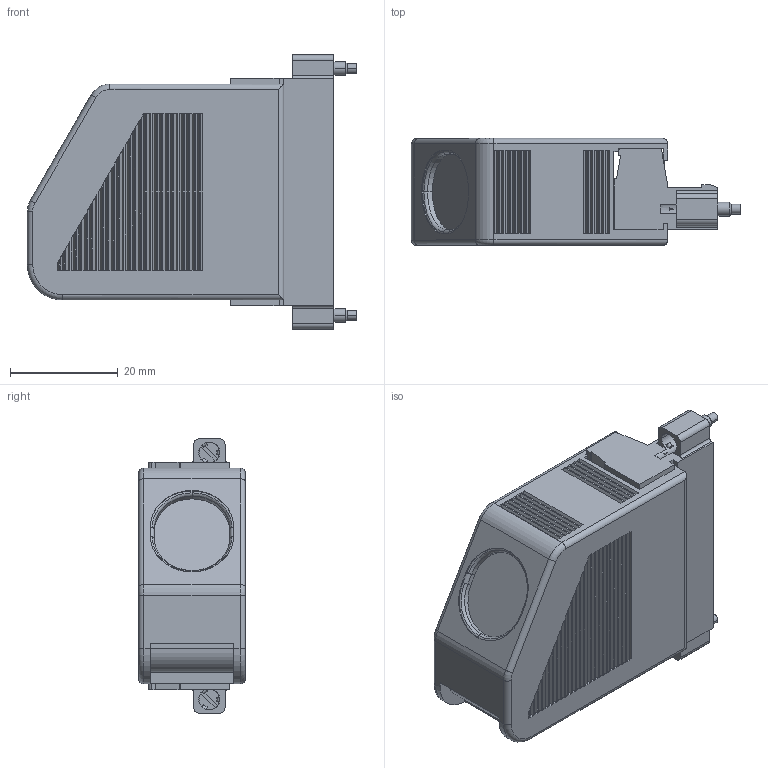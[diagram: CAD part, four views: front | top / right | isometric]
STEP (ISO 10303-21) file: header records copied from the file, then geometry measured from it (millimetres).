
FILE_DESCRIPTION((''),'2;1');
FILE_NAME('2600-KIT_ASM','2023-02-28T12:32:59',('afergus2'),('Keithley Instruments'),'CREO PARAMETRIC BY PTC INC, 2022284','CREO PARAMETRIC BY PTC INC, 2022284','');
FILE_SCHEMA(('AUTOMOTIVE_DESIGN { 1 0 10303 214 1 1 1 1 }'));
Length unit declared in the file: inch
Products named in the file (5): CS-1195-8; KGS-MSTB_2_5-8-153630; KGS-MSTB_2_5-8-158510_ASM; CS-1196-8_ASM; 2600-KIT_ASM
Assembly tree (4 placements, depth 4):
  2600-KIT_ASM
    CS-1195-8
    CS-1196-8_ASM
      KGS-MSTB_2_5-8-158510_ASM
        KGS-MSTB_2_5-8-153630
Bounding box: 61 x 19.8 x 50.8 mm (x, y, z)
Volume: 34402 mm3; surface area: 14584.1 mm2
Topology: 2 solids, 2 shells, 1031 faces, 2476 edges, 1604 vertices
Faces by surface type: plane 806, cylinder 177, cone 24, torus 20, bspline 4
Entity records: 43041 total; most frequent: CARTESIAN_POINT 5483, DIRECTION 5095, ORIENTED_EDGE 4940, PRESENTATION_STYLE_ASSIGNMENT 3017, STYLED_ITEM 2516, CURVE_STYLE 2484, EDGE_CURVE 2470, VECTOR 1972
